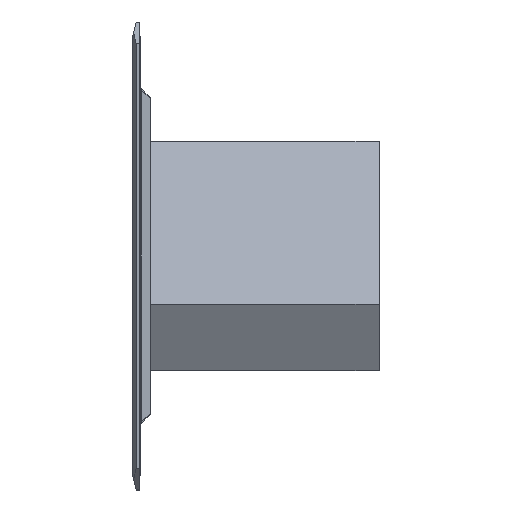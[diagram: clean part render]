
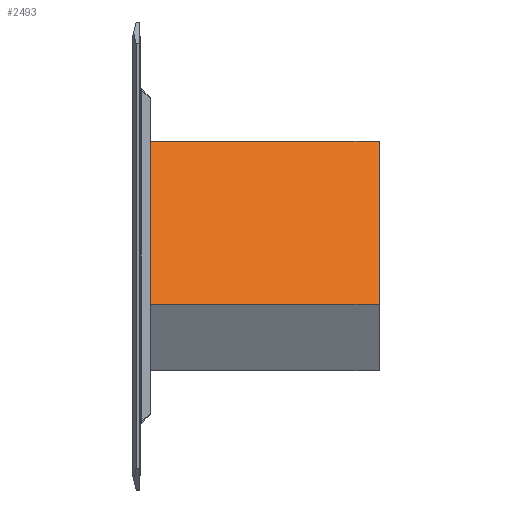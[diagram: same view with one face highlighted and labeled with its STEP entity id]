
A CAD part, left-side view. The second image highlights one B-rep face of the part: STEP entity #2493.
In plain terms, the highlighted planar face has unit normal (-0.866, 0, 0.5) as drawn and (1, 0, 0) by its records, which use the part's own axes.
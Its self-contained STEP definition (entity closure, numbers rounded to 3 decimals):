
#95 = ORIENTED_EDGE ( 'NONE', *, *, #5000, .T. ) ;
#97 = LINE ( 'NONE', #2386, #937 ) ;
#692 = CARTESIAN_POINT ( 'NONE',  ( 52., 342.5, -311.77 ) ) ;
#887 = DIRECTION ( 'NONE',  ( 0., -1., 0. ) ) ;
#925 = CARTESIAN_POINT ( 'NONE',  ( 52., 342.5, -311.77 ) ) ;
#937 = VECTOR ( 'NONE', #8737, 1000. ) ;
#1028 = LINE ( 'NONE', #6043, #2721 ) ;
#1034 = VECTOR ( 'NONE', #3585, 1000. ) ;
#2041 = VERTEX_POINT ( 'NONE', #6731 ) ;
#2170 = LINE ( 'NONE', #2261, #6922 ) ;
#2261 = CARTESIAN_POINT ( 'NONE',  ( 52., 342.5, -311.77 ) ) ;
#2386 = CARTESIAN_POINT ( 'NONE',  ( 52., 342.5, 251.726 ) ) ;
#2493 = ADVANCED_FACE ( 'NONE', ( #8957 ), #3149, .F. ) ;
#2721 = VECTOR ( 'NONE', #4685, 1000. ) ;
#3015 = CARTESIAN_POINT ( 'NONE',  ( 52., -342.5, -311.77 ) ) ;
#3149 = PLANE ( 'NONE',  #9070 ) ;
#3413 = EDGE_LOOP ( 'NONE', ( #5238, #3750, #6795, #95 ) ) ;
#3585 = DIRECTION ( 'NONE',  ( 0., 0., -1. ) ) ;
#3750 = ORIENTED_EDGE ( 'NONE', *, *, #5819, .F. ) ;
#3902 = CARTESIAN_POINT ( 'NONE',  ( 52., 342.5, -311.77 ) ) ;
#4023 = CARTESIAN_POINT ( 'NONE',  ( 52., -342.5, 251.726 ) ) ;
#4685 = DIRECTION ( 'NONE',  ( 0., 0., -1. ) ) ;
#5000 = EDGE_CURVE ( 'NONE', #2041, #6174, #97, .T. ) ;
#5093 = LINE ( 'NONE', #692, #1034 ) ;
#5238 = ORIENTED_EDGE ( 'NONE', *, *, #9279, .T. ) ;
#5819 = EDGE_CURVE ( 'NONE', #7340, #8817, #2170, .T. ) ;
#6043 = CARTESIAN_POINT ( 'NONE',  ( 52., -342.5, -311.77 ) ) ;
#6110 = DIRECTION ( 'NONE',  ( -1., 0., 0. ) ) ;
#6174 = VERTEX_POINT ( 'NONE', #4023 ) ;
#6731 = CARTESIAN_POINT ( 'NONE',  ( 52., 342.5, 251.726 ) ) ;
#6752 = DIRECTION ( 'NONE',  ( 0., 0., 1. ) ) ;
#6795 = ORIENTED_EDGE ( 'NONE', *, *, #8640, .F. ) ;
#6922 = VECTOR ( 'NONE', #887, 1000. ) ;
#7340 = VERTEX_POINT ( 'NONE', #925 ) ;
#8640 = EDGE_CURVE ( 'NONE', #2041, #7340, #5093, .T. ) ;
#8737 = DIRECTION ( 'NONE',  ( 0., -1., 0. ) ) ;
#8817 = VERTEX_POINT ( 'NONE', #3015 ) ;
#8957 = FACE_OUTER_BOUND ( 'NONE', #3413, .T. ) ;
#9070 = AXIS2_PLACEMENT_3D ( 'NONE', #3902, #6110, #6752 ) ;
#9279 = EDGE_CURVE ( 'NONE', #6174, #8817, #1028, .T. ) ;
